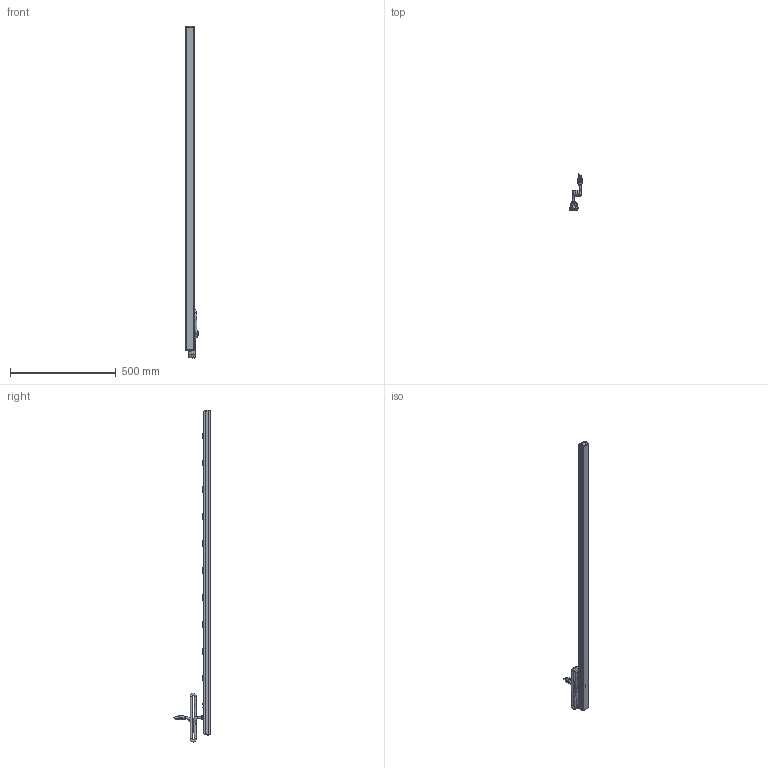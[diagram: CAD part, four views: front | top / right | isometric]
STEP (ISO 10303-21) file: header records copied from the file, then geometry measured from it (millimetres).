
FILE_DESCRIPTION((''),'2;1');
FILE_NAME('E:\Dutton\Manufacturing\drawings\Updated 2009\Vertical Rack Mount Strips\1586 Series\STEP''s\1586H10A1.stp','2010-01-19T13:35:30',('tfoster'),(''),'Autodesk Inventor 2010','Autodesk Inventor 2010','');
FILE_SCHEMA(('AUTOMOTIVE_DESIGN { 1 0 10303 214 1 1 1 1 }'));
Length unit declared in the file: inch
Products named in the file (14): 1586H10A1; 1586H10 top; 1586 bottom; End Cap; End Cap w breaker; Reset Switch; #6 - 0.375 Type A screw; Cored 2; toothwasher; round head 1-way 8-32 x 0.5 screw; Power Switch Assembly; Power Switch; Power Switch pt; Receptacle
Assembly tree (25 placements, depth 3):
  1586H10A1
    1586H10 top
    1586 bottom
    End Cap
    End Cap w breaker
    Reset Switch
    #6 - 0.375 Type A screw  x4
    Cored 2
    toothwasher
    round head 1-way 8-32 x 0.5 screw
    Power Switch Assembly
      Power Switch
      Power Switch pt
    Receptacle  x10
Bounding box: 60.19 x 170.82 x 1567.58 mm (x, y, z)
Volume: 588742.9 mm3; surface area: 581770 mm2
Topology: 24 solids, 24 shells, 1229 faces, 3498 edges, 2307 vertices
Faces by surface type: plane 736, cylinder 266, bspline 139, sphere 46, cone 27, torus 15
Full cylindrical faces by diameter (mm): 1 x2, 1.803 x3, 1.905 x2, 3 x2, 3.175 x12, 4.3 x1, 4.775 x1, 4.826 x1, 7.849 x1, 9.5 x5, 11 x1, 15.621 x1, 19.05 x2
Entity records: 27633 total; most frequent: CARTESIAN_POINT 9778, ORIENTED_EDGE 3860, DIRECTION 3201, EDGE_CURVE 1930, VERTEX_POINT 1360, VECTOR 1129, LINE 1129, AXIS2_PLACEMENT_3D 1036
